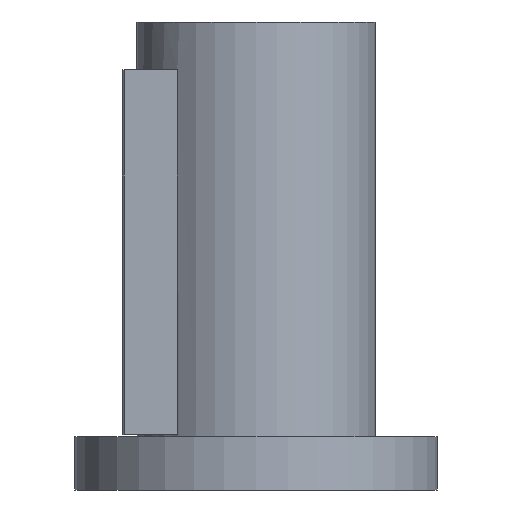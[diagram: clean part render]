
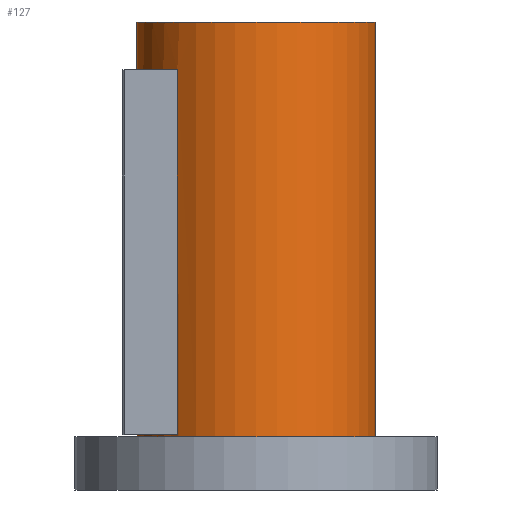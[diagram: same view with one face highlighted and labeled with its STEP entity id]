
A CAD part, front view. The second image highlights one B-rep face of the part: STEP entity #127.
In plain terms, the highlighted cylindrical face has radius 62.5 mm (diameter 125 mm), a full revolution.
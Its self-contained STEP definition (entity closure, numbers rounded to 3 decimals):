
#127=ADVANCED_FACE('',(#200,#201,#202),#155,.T.);
#155=CYLINDRICAL_SURFACE('',#508,62.5);
#168=LINE('',#698,#184);
#169=LINE('',#702,#185);
#184=VECTOR('',#568,1.);
#185=VECTOR('',#571,1.);
#200=FACE_BOUND('',#245,.T.);
#201=FACE_BOUND('',#246,.T.);
#202=FACE_BOUND('',#247,.T.);
#245=EDGE_LOOP('',(#305));
#246=EDGE_LOOP('',(#306));
#247=EDGE_LOOP('',(#307,#308,#309,#310));
#305=ORIENTED_EDGE('',*,*,#431,.F.);
#306=ORIENTED_EDGE('',*,*,#432,.T.);
#307=ORIENTED_EDGE('',*,*,#433,.F.);
#308=ORIENTED_EDGE('',*,*,#434,.F.);
#309=ORIENTED_EDGE('',*,*,#435,.T.);
#310=ORIENTED_EDGE('',*,*,#436,.F.);
#393=VERTEX_POINT('',#692);
#394=VERTEX_POINT('',#694);
#395=VERTEX_POINT('',#696);
#396=VERTEX_POINT('',#697);
#397=VERTEX_POINT('',#699);
#398=VERTEX_POINT('',#701);
#431=EDGE_CURVE('',#393,#393,#475,.T.);
#432=EDGE_CURVE('',#394,#394,#476,.T.);
#433=EDGE_CURVE('',#395,#396,#477,.T.);
#434=EDGE_CURVE('',#397,#395,#168,.T.);
#435=EDGE_CURVE('',#397,#398,#478,.T.);
#436=EDGE_CURVE('',#396,#398,#169,.T.);
#475=CIRCLE('',#504,62.5);
#476=CIRCLE('',#505,62.5);
#477=CIRCLE('',#506,62.5);
#478=CIRCLE('',#507,62.5);
#504=AXIS2_PLACEMENT_3D('',#691,#562,#563);
#505=AXIS2_PLACEMENT_3D('',#693,#564,#565);
#506=AXIS2_PLACEMENT_3D('',#695,#566,#567);
#507=AXIS2_PLACEMENT_3D('',#700,#569,#570);
#508=AXIS2_PLACEMENT_3D('',#703,#572,#573);
#562=DIRECTION('',(0.,0.,1.));
#563=DIRECTION('',(1.,0.,0.));
#564=DIRECTION('',(0.,0.,1.));
#565=DIRECTION('',(1.,0.,0.));
#566=DIRECTION('',(0.,0.,-1.));
#567=DIRECTION('',(-1.,0.,0.));
#568=DIRECTION('',(0.,0.,1.));
#569=DIRECTION('',(0.,0.,-1.));
#570=DIRECTION('',(-1.,0.,0.));
#571=DIRECTION('',(0.,0.,-1.));
#572=DIRECTION('',(0.,0.,-1.));
#573=DIRECTION('',(-1.,0.,0.));
#691=CARTESIAN_POINT('',(0.,0.,245.));
#692=CARTESIAN_POINT('',(62.5,0.,245.));
#693=CARTESIAN_POINT('',(0.,0.,28.));
#694=CARTESIAN_POINT('',(62.5,0.,28.));
#695=CARTESIAN_POINT('',(0.,0.,220.));
#696=CARTESIAN_POINT('',(-41.198,-47.,220.));
#697=CARTESIAN_POINT('',(-41.198,47.,220.));
#698=CARTESIAN_POINT('',(-41.198,-47.,245.));
#699=CARTESIAN_POINT('',(-41.198,-47.,29.));
#700=CARTESIAN_POINT('',(0.,0.,29.));
#701=CARTESIAN_POINT('',(-41.198,47.,29.));
#702=CARTESIAN_POINT('',(-41.198,47.,245.));
#703=CARTESIAN_POINT('',(0.,0.,245.));
